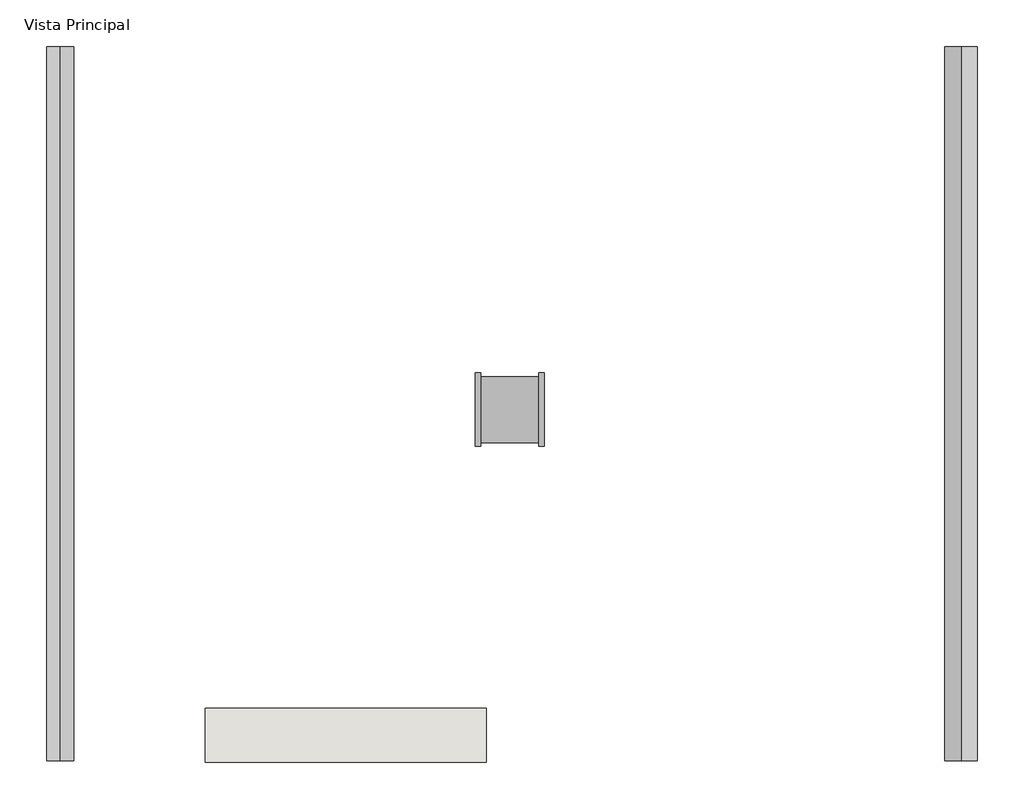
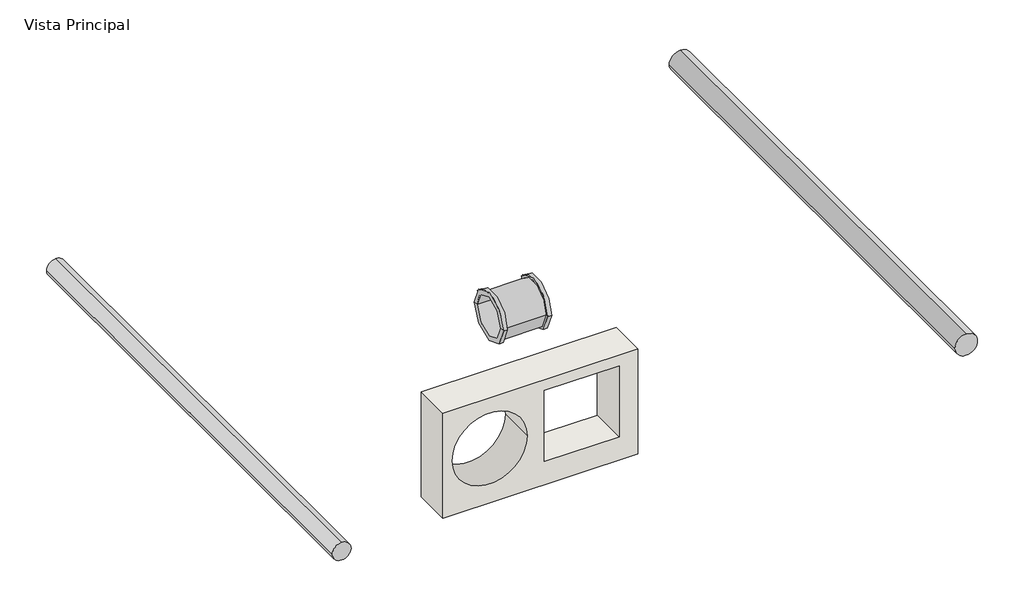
# One storey, incomplete: 2 pipe segments, 1 pipe fitting, 1 wall.
"""IFC4 building model written with IfcOpenShell, lengths in millimetres."""

from ifc_helpers import new_model, si_unit, point, frame, frame_2d, origin, place, context, project, spatial, polyline, circle_curve, trimmed, segment, composite_curve, outline, extrude, transform, mapped, element, save
from components import var_442856bb

model = new_model("IFC4")

# Units and contexts
model_context = context("Model", 3, world=origin())
ifc_project = project(units=[si_unit("LENGTHUNIT", "METRE", prefix="MILLI")], contexts=[model_context])

# Site, building, storey
site = spatial("IfcSite", under=ifc_project)
building = spatial("IfcBuilding", under=site)
storey = spatial("IfcBuildingStorey", under=building, Name="Vista Principal", Elevation=0.0)

# Pipe fitting
placement = place(None, origin())
var_shape = var_442856bb(model_context)
element("IfcPipeFitting", 1, ObjectType="AmancoWavin_ConexõesdeTubos_ÁguaFriaSoldávelLuva : var.", at=placement, inside=storey, context=model_context, shape_type="MappedRepresentation", body=[
    mapped(var_shape, transform((4121.1371856, 5088.1151847, 0.0), x_axis=(1.0, 0.0, 0.0), y_axis=(0.0, 1.0, 0.0), z_axis=(0.0, 0.0, 1.0))),
])

# Pipe segments
element("IfcPipeSegment", 2, ObjectType="Amanco Wavin Agua Fria Roscável", at=placement, inside=storey, context=model_context, shape_type="SweptSolid", body=[
    extrude(outline(composite_curve([segment(trimmed(circle_curve(frame_2d((0.0, 4955.2899138)), 30.05), [point((0.0, 4925.2399138))], [point((-30.05, 4955.2899138))], False, "CARTESIAN"), True, "CONTINUOUS"), segment(trimmed(circle_curve(frame_2d((0.0, 4955.2899138)), 30.05), [point((-30.05, 4955.2899138))], [point((0.0, 4985.3399138))], False, "CARTESIAN"), True, "CONTINUOUS"), segment(trimmed(circle_curve(frame_2d((0.0, 4955.2899138)), 30.05), [point((0.0, 4985.3399138))], [point((30.05, 4955.2899138))], False, "CARTESIAN"), True, "CONTINUOUS"), segment(trimmed(circle_curve(frame_2d((0.0, 4955.2899138)), 30.05), [point((30.05, 4955.2899138))], [point((0.0, 4925.2399138))], False, "CARTESIAN"), True, "CONTINUOUS")], self_intersect=False)), frame((0.0, 4439.0585151, 0.0), z_axis=(0.0, 1.0, 0.0), x_axis=(0.0, 0.0, 1.0)), (0.0, 0.0, 1.0), 1320.0),
])
element("IfcPipeSegment", 3, ObjectType="Amanco Wavin Agua Fria Soldável", at=placement, inside=storey, context=model_context, shape_type="SweptSolid", body=[
    extrude(outline(composite_curve([segment(trimmed(circle_curve(frame_2d((0.0, 3289.7132202)), 25.0), [point((0.0, 3314.7132202))], [point((25.0, 3289.7132202))], False, "CARTESIAN"), True, "CONTINUOUS"), segment(trimmed(circle_curve(frame_2d((0.0, 3289.7132202)), 25.0), [point((25.0, 3289.7132202))], [point((0.0, 3264.7132202))], False, "CARTESIAN"), True, "CONTINUOUS"), segment(trimmed(circle_curve(frame_2d((0.0, 3289.7132202)), 25.0), [point((0.0, 3264.7132202))], [point((-25.0, 3289.7132202))], False, "CARTESIAN"), True, "CONTINUOUS"), segment(trimmed(circle_curve(frame_2d((0.0, 3289.7132202)), 25.0), [point((-25.0, 3289.7132202))], [point((0.0, 3314.7132202))], False, "CARTESIAN"), True, "CONTINUOUS")], self_intersect=False)), frame((0.0, 4439.0585151, 0.0), z_axis=(0.0, 1.0, 0.0), x_axis=(0.0, 0.0, 1.0)), (0.0, 0.0, 1.0), 1320.0),
])

# Wall
element("IfcWall", 4, ObjectType="Wall 1", at=placement, inside=storey, context=model_context, shape_type="SweptSolid", body=[
    extrude(outline(polyline([(0.0, 3557.8399475), (0.0, 4077.8399475), (296.5968372, 4077.8399475), (296.5968372, 3557.8399475), (0.0, 3557.8399475)]), holes=[composite_curve([segment(trimmed(circle_curve(frame_2d((154.4282969, 3682.8399475)), 100.0), [point((154.4282969, 3782.8399475))], [point((154.4282969, 3582.8399475))], True, "CARTESIAN"), True, "CONTINUOUS"), segment(trimmed(circle_curve(frame_2d((154.4282969, 3682.8399475)), 100.0), [point((154.4282969, 3582.8399475))], [point((154.4282969, 3782.8399475))], True, "CARTESIAN"), True, "CONTINUOUS")], self_intersect=False), polyline([(66.4896004, 4027.8399475), (66.4896004, 3827.8399475), (266.4896004, 3827.8399475), (266.4896004, 4027.8399475), (66.4896004, 4027.8399475)])]), frame((0.0, 4436.1510999, 0.0), z_axis=(0.0, 1.0, 0.0), x_axis=(0.0, 0.0, 1.0)), (0.0, 0.0, 1.0), 100.0),
])

save(model, "model.ifc")
